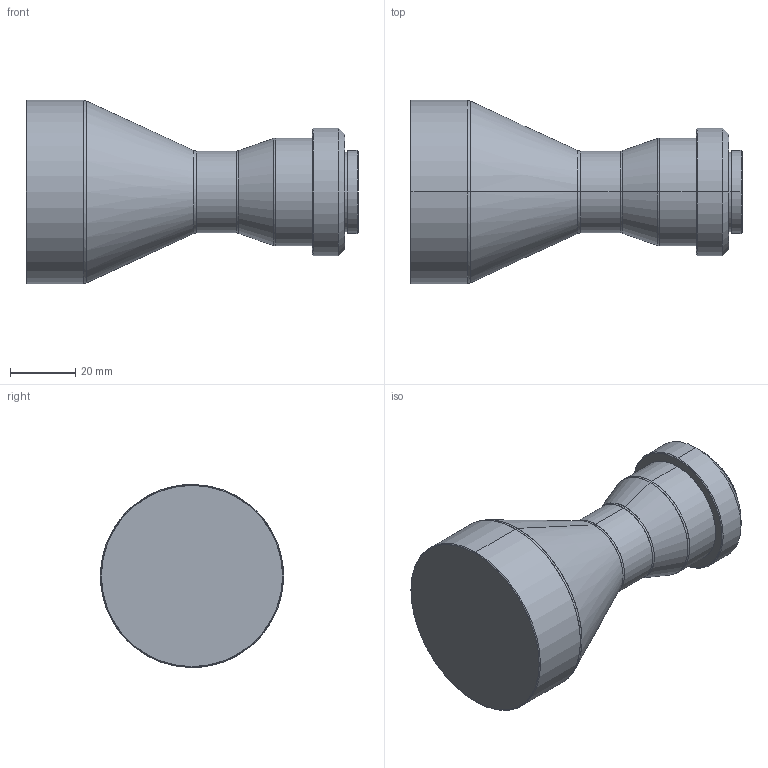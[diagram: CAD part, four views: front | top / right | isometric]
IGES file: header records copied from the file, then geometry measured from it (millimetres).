
Start section: SolidWorks IGES file using analytic representation for surfaces
Global section: file name: C:\Users\Administrator\Desktop\DTCA\3D\DTCA430-42-C.IGS; native system: SolidWorks 2017; preprocessor: SolidWorks 2017; author: Administrator; date: 191113.152739; units: millimetre
Bounding box: 101.5 x 56 x 56 mm (x, y, z)
Surface area: 16589.2 mm2 (no closed solid volume)
Topology: 0 solids, 0 shells, 37 faces, 512 edges, 512 vertices
Faces by surface type: revolution 24, bspline 13
